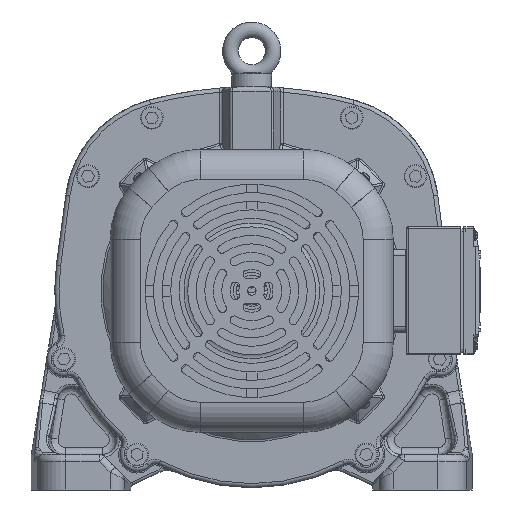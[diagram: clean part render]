
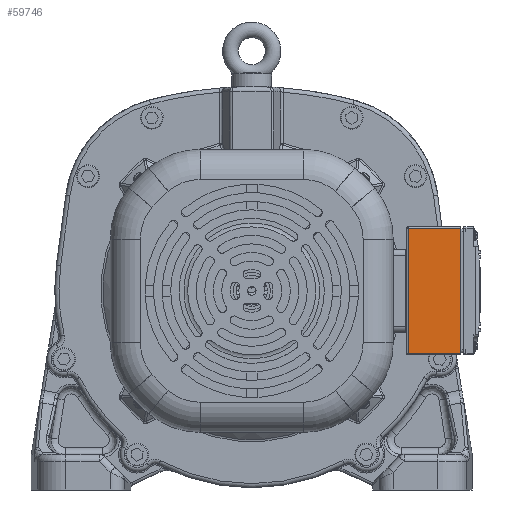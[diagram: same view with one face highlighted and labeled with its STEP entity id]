
A CAD part, front view. The second image highlights one B-rep face of the part: STEP entity #59746.
In plain terms, the highlighted planar face has unit normal (0, -1, 0).
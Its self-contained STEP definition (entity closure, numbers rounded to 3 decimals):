
#2286=PLANE('',#64140);
#3699=FACE_OUTER_BOUND('',#7404,.T.);
#7404=EDGE_LOOP('',(#40304,#40305,#40306,#40307));
#15321=LINE('',#90687,#18357);
#15322=LINE('',#90689,#18358);
#15323=LINE('',#90691,#18359);
#15324=LINE('',#90692,#18360);
#18357=VECTOR('',#73174,10.);
#18358=VECTOR('',#73175,10.);
#18359=VECTOR('',#73176,10.);
#18360=VECTOR('',#73177,10.);
#23638=VERTEX_POINT('',#90685);
#23639=VERTEX_POINT('',#90686);
#23640=VERTEX_POINT('',#90688);
#23641=VERTEX_POINT('',#90690);
#29717=EDGE_CURVE('',#23638,#23639,#15321,.T.);
#29718=EDGE_CURVE('',#23640,#23638,#15322,.T.);
#29719=EDGE_CURVE('',#23640,#23641,#15323,.T.);
#29720=EDGE_CURVE('',#23639,#23641,#15324,.T.);
#40304=ORIENTED_EDGE('',*,*,#29717,.F.);
#40305=ORIENTED_EDGE('',*,*,#29718,.F.);
#40306=ORIENTED_EDGE('',*,*,#29719,.T.);
#40307=ORIENTED_EDGE('',*,*,#29720,.F.);
#59746=ADVANCED_FACE('',(#3699),#2286,.T.);
#64140=AXIS2_PLACEMENT_3D('',#90684,#73172,#73173);
#73172=DIRECTION('center_axis',(0.,-1.,0.));
#73173=DIRECTION('ref_axis',(1.,0.,0.));
#73174=DIRECTION('',(0.,0.,1.));
#73175=DIRECTION('',(-1.,0.,0.));
#73176=DIRECTION('',(0.,0.,1.));
#73177=DIRECTION('',(1.,0.,0.));
#90684=CARTESIAN_POINT('Origin',(109.228,-281.228,-46.75));
#90685=CARTESIAN_POINT('',(110.228,-281.228,-45.75));
#90686=CARTESIAN_POINT('',(110.228,-281.228,42.25));
#90687=CARTESIAN_POINT('',(110.228,-281.228,-24.25));
#90688=CARTESIAN_POINT('',(147.228,-281.228,-45.75));
#90689=CARTESIAN_POINT('',(109.228,-281.228,-45.75));
#90690=CARTESIAN_POINT('',(147.228,-281.228,42.25));
#90691=CARTESIAN_POINT('',(147.228,-281.228,43.25));
#90692=CARTESIAN_POINT('',(109.228,-281.228,42.25));
